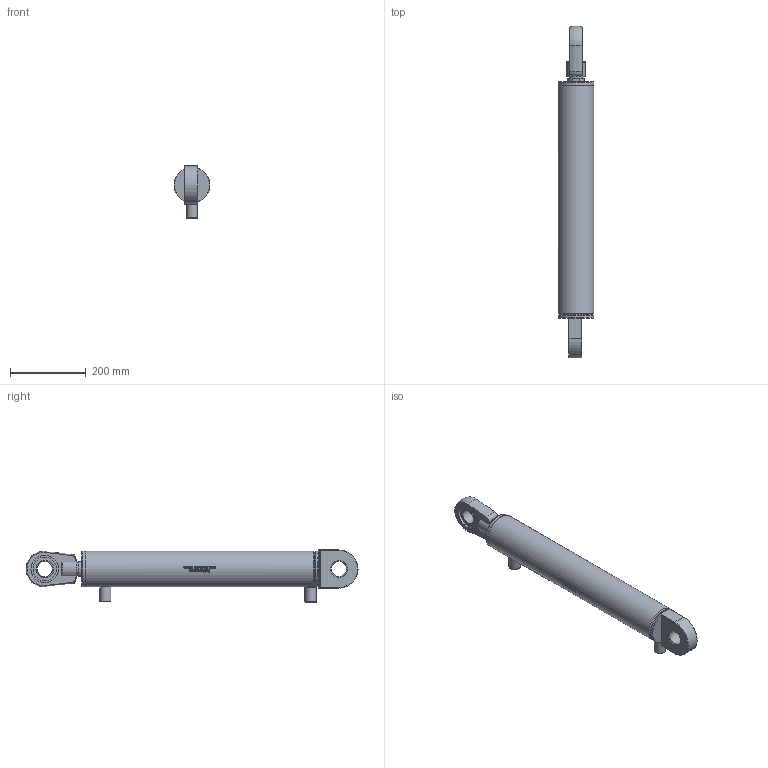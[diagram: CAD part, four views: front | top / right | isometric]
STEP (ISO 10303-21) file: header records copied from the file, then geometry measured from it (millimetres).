
FILE_DESCRIPTION(/* description */ (''),/* implementation_level */ '2;1');
FILE_NAME(/* name */ 'HC_A_80_45_500_AMB_WEB.step',/* time_stamp */ '2023-07-25T14:31:02+03:00',/* author */ (''),/* organization */ (''),/* preprocessor_version */ 'ST-DEVELOPER v20',/* originating_system */ 'Autodesk Translation Framework v12.9.0.99',/* authorisation */ '');
FILE_SCHEMA (('AUTOMOTIVE_DESIGN { 1 0 10303 214 3 1 1 }'));
Length unit declared in the file: millimetre
Products named in the file (16): HC_A_80_45_50_ÖAMB_WEB; Manşon_1_2; RMK_40_101; TAK_80_95; Bileşen1; RMV_40; dgihl_40_do; 45_K_MIL_WEB; Bileşen1_1; HCA_A_80_95_BORU; 80_100_Boru; TDK_80_45; TDK_80_45_1; K06-45X55_6X5_3X7; K22-045_55_10; KO-77X3
Assembly tree (16 placements, depth 3):
  HC_A_80_45_50_ÖAMB_WEB
    Manşon_1_2  x2
    RMK_40_101
    TAK_80_95
      Bileşen1
    RMV_40
      dgihl_40_do
    45_K_MIL_WEB
      Bileşen1_1
    HCA_A_80_95_BORU
      80_100_Boru
    TDK_80_45
      TDK_80_45_1
      K06-45X55_6X5_3X7
      K22-045_55_10
      KO-77X3
Bounding box: 95 x 878.16 x 138 mm (x, y, z)
Volume: 2418714.5 mm3; surface area: 525155.6 mm2
Topology: 11 solids, 11 shells, 752 faces, 1945 edges, 1276 vertices
Faces by surface type: bspline 355, plane 251, cylinder 75, cone 49, torus 13, sphere 9
Full cylindrical faces by diameter (mm): 8.526 x1, 10 x2, 19 x2, 30 x2, 32.822 x1, 33.376 x1, 34.85 x1, 40 x2, 45 x3, 45.571 x1, 46.6 x1, 47.6 x1, 49 x1, 54.429 x1, 55 x2, 55.6 x1, 62 x2, 73 x2, 77 x1, 80 x2, 81 x3, 83 x1, 83.022 x1, 84.822 x1, 87 x1, 95 x3
Entity records: 34550 total; most frequent: CARTESIAN_POINT 18123, ORIENTED_EDGE 3854, DIRECTION 2326, EDGE_CURVE 1927, VERTEX_POINT 1266, LINE 882, VECTOR 882, EDGE_LOOP 831
